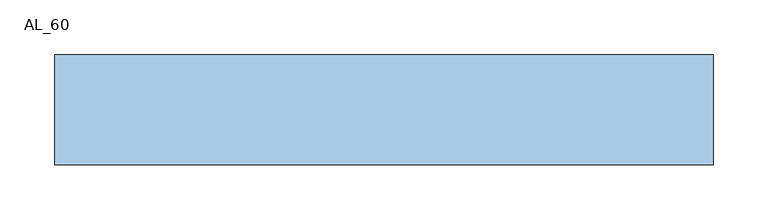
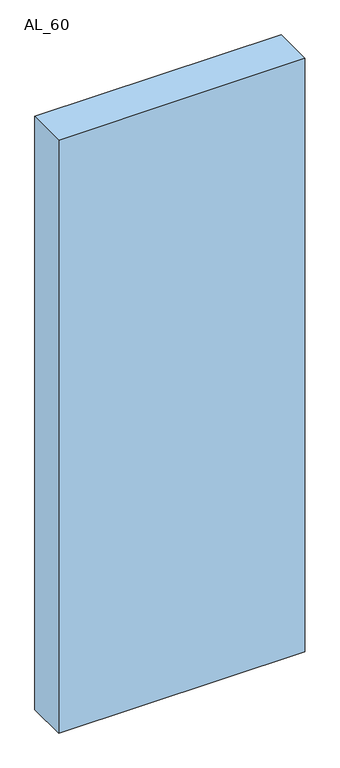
"""IFC4 building model written with IfcOpenShell, lengths in millimetres: window geometry, TRP_CP_ARC_FI_V3 : AL_60."""

from ifc_helpers import new_model, si_unit, origin, origin_with_axes, place, context, project, spatial, polyline, outline, extrude, source, transform, mapped, element, save


def al_60_92c340f7(model_context):
    return source(origin(), model_context, "Body", "SweptSolid", [
        extrude(outline(polyline([(300.0, -50.0), (-300.0, -50.0), (-300.0, 50.0), (300.0, 50.0), (300.0, -50.0)])), origin_with_axes(), (0.0, 0.0, 1.0), 1527.0),
    ])


if __name__ == "__main__":
    model = new_model("IFC4")
    model_context = context("Model", 3, world=origin())
    ifc_project = project(units=[si_unit("LENGTHUNIT", "METRE", prefix="MILLI")], contexts=[model_context])
    site = spatial("IfcSite", under=ifc_project)
    building = spatial("IfcBuilding", under=site)
    placement = place(None, origin())
    al_60_shape = al_60_92c340f7(model_context)
    element("IfcWindow", 1, ObjectType="TRP_CP_ARC_FI_V3 : AL_60", at=placement, inside=building, context=model_context, shape_type="MappedRepresentation", body=[
        mapped(al_60_shape, transform((0.0, 0.0, 0.0), x_axis=(1.0, 0.0, 0.0), y_axis=(0.0, 1.0, 0.0), z_axis=(0.0, 0.0, 1.0))),
    ])
    save(model, "model.ifc")
